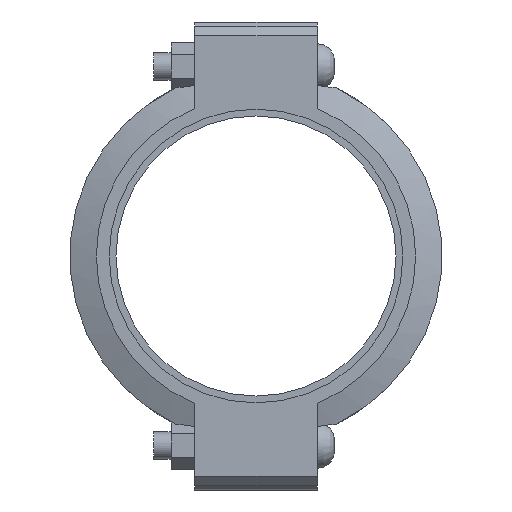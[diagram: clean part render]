
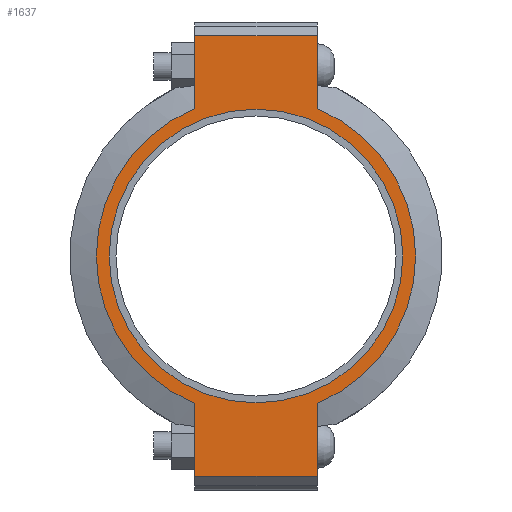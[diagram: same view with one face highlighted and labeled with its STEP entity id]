
A CAD part, left-side view. The second image highlights one B-rep face of the part: STEP entity #1637.
In plain terms, the highlighted planar face has unit normal (-1, 0, 0) as drawn and (0, 0, 1) by its records, which use the part's own axes.
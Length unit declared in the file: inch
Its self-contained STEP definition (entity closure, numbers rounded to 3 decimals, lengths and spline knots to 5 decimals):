
#208=LINE('',#2838,#297);
#219=LINE('',#2889,#308);
#225=LINE('',#2915,#314);
#227=LINE('',#2918,#316);
#228=LINE('',#2923,#317);
#229=LINE('',#2924,#318);
#297=VECTOR('',#2310,0.3937);
#308=VECTOR('',#2341,0.3937);
#314=VECTOR('',#2359,0.3937);
#316=VECTOR('',#2363,0.3937);
#317=VECTOR('',#2368,0.3937);
#318=VECTOR('',#2369,0.3937);
#380=FACE_BOUND('',#557,.T.);
#448=FACE_OUTER_BOUND('',#556,.T.);
#556=EDGE_LOOP('',(#1332,#1333,#1334,#1335,#1336,#1337,#1338,#1339));
#557=EDGE_LOOP('',(#1340));
#639=CIRCLE('',#1874,5.375);
#663=CIRCLE('',#1926,5.845);
#664=CIRCLE('',#1927,5.845);
#735=VERTEX_POINT('',#2664);
#776=VERTEX_POINT('',#2835);
#777=VERTEX_POINT('',#2837);
#794=VERTEX_POINT('',#2884);
#795=VERTEX_POINT('',#2888);
#802=VERTEX_POINT('',#2910);
#803=VERTEX_POINT('',#2914);
#804=VERTEX_POINT('',#2920);
#805=VERTEX_POINT('',#2922);
#899=EDGE_CURVE('',#735,#735,#639,.T.);
#956=EDGE_CURVE('',#777,#776,#208,.T.);
#977=EDGE_CURVE('',#795,#794,#219,.T.);
#988=EDGE_CURVE('',#803,#802,#225,.T.);
#990=EDGE_CURVE('',#803,#776,#227,.T.);
#991=EDGE_CURVE('',#802,#804,#663,.T.);
#992=EDGE_CURVE('',#804,#805,#228,.T.);
#993=EDGE_CURVE('',#795,#805,#229,.T.);
#994=EDGE_CURVE('',#794,#777,#664,.T.);
#1332=ORIENTED_EDGE('',*,*,#990,.F.);
#1333=ORIENTED_EDGE('',*,*,#988,.T.);
#1334=ORIENTED_EDGE('',*,*,#991,.T.);
#1335=ORIENTED_EDGE('',*,*,#992,.T.);
#1336=ORIENTED_EDGE('',*,*,#993,.F.);
#1337=ORIENTED_EDGE('',*,*,#977,.T.);
#1338=ORIENTED_EDGE('',*,*,#994,.T.);
#1339=ORIENTED_EDGE('',*,*,#956,.T.);
#1340=ORIENTED_EDGE('',*,*,#899,.T.);
#1477=PLANE('',#1925);
#1637=ADVANCED_FACE('',(#448,#380),#1477,.T.);
#1874=AXIS2_PLACEMENT_3D('',#2666,#2200,#2201);
#1925=AXIS2_PLACEMENT_3D('',#2919,#2364,#2365);
#1926=AXIS2_PLACEMENT_3D('',#2921,#2366,#2367);
#1927=AXIS2_PLACEMENT_3D('',#2925,#2370,#2371);
#2200=DIRECTION('center_axis',(0.,0.,-1.));
#2201=DIRECTION('ref_axis',(1.,0.,0.));
#2310=DIRECTION('',(1.,0.,0.));
#2341=DIRECTION('',(1.,0.,0.));
#2359=DIRECTION('',(-1.,0.,0.));
#2363=DIRECTION('',(0.,-1.,0.));
#2364=DIRECTION('center_axis',(0.,0.,1.));
#2365=DIRECTION('ref_axis',(-1.,0.,0.));
#2366=DIRECTION('center_axis',(0.,0.,1.));
#2367=DIRECTION('ref_axis',(1.,0.,0.));
#2368=DIRECTION('',(-1.,0.,0.));
#2369=DIRECTION('',(0.,1.,0.));
#2370=DIRECTION('center_axis',(0.,0.,1.));
#2371=DIRECTION('ref_axis',(1.,0.,0.));
#2664=CARTESIAN_POINT('',(-5.375,0.,1.315));
#2666=CARTESIAN_POINT('Origin',(0.,0.,1.315));
#2835=CARTESIAN_POINT('',(8.065,-2.25,1.315));
#2837=CARTESIAN_POINT('',(5.39458,-2.25,1.315));
#2838=CARTESIAN_POINT('',(-8.565,-2.25,1.315));
#2884=CARTESIAN_POINT('',(-5.39458,-2.25,1.315));
#2888=CARTESIAN_POINT('',(-8.065,-2.25,1.315));
#2889=CARTESIAN_POINT('',(-8.565,-2.25,1.315));
#2910=CARTESIAN_POINT('',(5.39458,2.25,1.315));
#2914=CARTESIAN_POINT('',(8.065,2.25,1.315));
#2915=CARTESIAN_POINT('',(8.565,2.25,1.315));
#2918=CARTESIAN_POINT('',(8.065,-1.125,1.315));
#2919=CARTESIAN_POINT('Origin',(0.,0.,
1.315));
#2920=CARTESIAN_POINT('',(-5.39458,2.25,1.315));
#2921=CARTESIAN_POINT('Origin',(0.,0.,1.315));
#2922=CARTESIAN_POINT('',(-8.065,2.25,1.315));
#2923=CARTESIAN_POINT('',(8.565,2.25,1.315));
#2924=CARTESIAN_POINT('',(-8.065,1.125,1.315));
#2925=CARTESIAN_POINT('Origin',(0.,0.,1.315));
